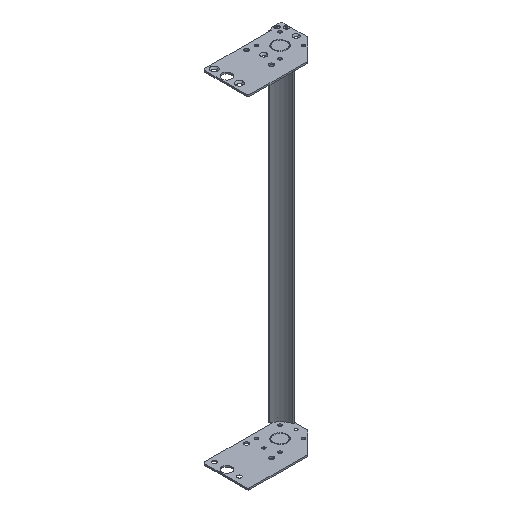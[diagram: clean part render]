
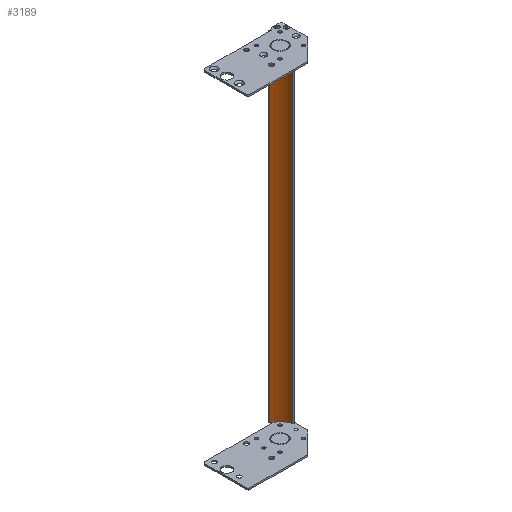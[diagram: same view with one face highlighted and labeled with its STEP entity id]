
A CAD part, isometric view. The second image highlights one B-rep face of the part: STEP entity #3189.
In plain terms, the highlighted cylindrical face has radius 40.64 mm (diameter 81.28 mm), a partial arc.
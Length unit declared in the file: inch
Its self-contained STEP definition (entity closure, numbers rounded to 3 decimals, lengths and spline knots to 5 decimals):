
#2837=CARTESIAN_POINT('',(-1.63,-1.52,-13.118));
#2838=DIRECTION('',(0.,0.,1.));
#2839=DIRECTION('',(0.946,0.325,0.));
#2840=AXIS2_PLACEMENT_3D('',#2837,#2838,#2839);
#2888=DIRECTION('',(0.,0.,1.));
#2889=VECTOR('',#2888,26.236);
#2890=CARTESIAN_POINT('',(-0.98126,-0.05742,-13.118));
#2891=LINE('',#2890,#2889);
#2907=CARTESIAN_POINT('',(-1.63,-1.52,13.118));
#2908=DIRECTION('',(0.,0.,-1.));
#2909=DIRECTION('',(0.405,0.914,0.));
#2910=AXIS2_PLACEMENT_3D('',#2907,#2908,#2909);
#2957=DIRECTION('',(0.,0.,1.));
#2958=VECTOR('',#2957,26.236);
#2959=CARTESIAN_POINT('',(-0.11675,-1.00032,-13.118));
#2960=LINE('',#2959,#2958);
#2996=CARTESIAN_POINT('',(-0.11675,-1.00032,-13.118));
#2998=VERTEX_POINT('',#2996);
#2999=CARTESIAN_POINT('',(-0.98126,-0.05742,13.118));
#3000=CARTESIAN_POINT('',(-0.11675,-1.00032,13.118));
#3001=VERTEX_POINT('',#2999);
#3002=VERTEX_POINT('',#3000);
#3011=CARTESIAN_POINT('',(-0.98126,-0.05742,-13.118));
#3012=VERTEX_POINT('',#3011);
#3178=CARTESIAN_POINT('',(-1.63,-1.52,13.118));
#3179=DIRECTION('',(0.,0.,-1.));
#3180=DIRECTION('',(-1.,0.,0.));
#3181=AXIS2_PLACEMENT_3D('',#3178,#3179,#3180);
#3182=CYLINDRICAL_SURFACE('',#3181,1.6);
#3183=ORIENTED_EDGE('',*,*,#3042,.T.);
#3184=ORIENTED_EDGE('',*,*,#3088,.T.);
#3185=ORIENTED_EDGE('',*,*,#3109,.T.);
#3186=ORIENTED_EDGE('',*,*,#3171,.F.);
#3187=EDGE_LOOP('',(#3183,#3184,#3185,#3186));
#3188=FACE_OUTER_BOUND('',#3187,.F.);
#2841=CIRCLE('',#2840,1.6);
#2911=CIRCLE('',#2910,1.6);
#3042=EDGE_CURVE('',#2998,#3012,#2841,.T.);
#3088=EDGE_CURVE('',#3012,#3001,#2891,.T.);
#3109=EDGE_CURVE('',#3001,#3002,#2911,.T.);
#3171=EDGE_CURVE('',#2998,#3002,#2960,.T.);
#3189=ADVANCED_FACE('',(#3188),#3182,.F.);
